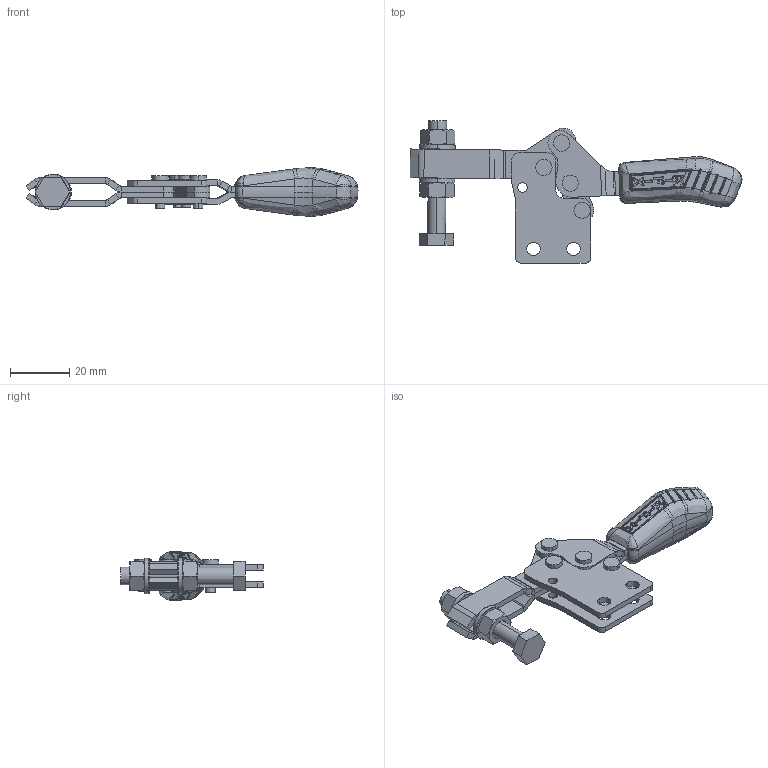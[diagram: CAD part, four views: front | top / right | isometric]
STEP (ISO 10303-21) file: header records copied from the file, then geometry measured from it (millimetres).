
FILE_DESCRIPTION (( 'STEP AP203' ), '1' );
FILE_NAME ('KF-106 R.STEP', '2014-08-15T17:15:54', ( 'Ricardo' ), ( '' ), 'SwSTEP 2.0', 'SolidWorks 2013', '' );
FILE_SCHEMA (( 'CONFIG_CONTROL_DESIGN' ));
Length unit declared in the file: millimetre
Products named in the file (12): 03.13003_Direita; 03.13003_Esquerda; 06.50003; 12.50019; 11.50001; 02.11051_Direita; 17.50001; 08.10004; 07.60004; 01.10009_Direita; KF-106 R; 01.10009_Esquerda
Assembly tree (18 placements, depth 2):
  KF-106 R
    02.11051_Direita  x2
    08.10004  x2
    01.10009_Direita
    01.10009_Esquerda
    03.13003_Direita
    03.13003_Esquerda
    06.50003  x4
    12.50019
    11.50001  x2
    17.50001  x2
    07.60004
Bounding box: 112.11 x 48.1 x 16.29 mm (x, y, z)
Volume: 16196.5 mm3; surface area: 15994.2 mm2
Topology: 18 solids, 18 shells, 1032 faces, 2549 edges, 1546 vertices
Faces by surface type: cylinder 356, plane 305, bspline 264, cone 52, sphere 52, torus 3
Entity records: 33350 total; most frequent: CARTESIAN_POINT 12401, ORIENTED_EDGE 4582, DIRECTION 3440, EDGE_CURVE 2291, VERTEX_POINT 1390, AXIS2_PLACEMENT_3D 1328, EDGE_LOOP 981, FACE_OUTER_BOUND 933
